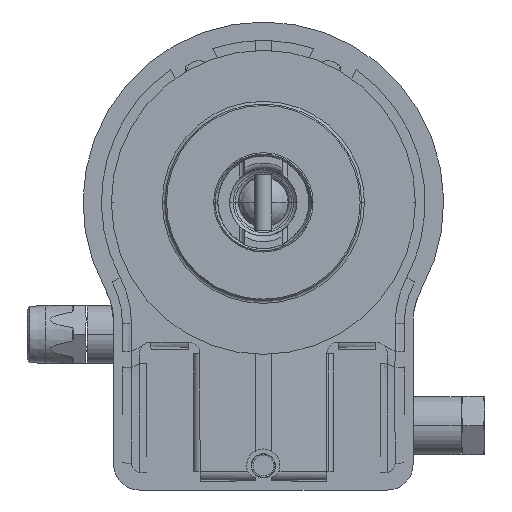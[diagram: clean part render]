
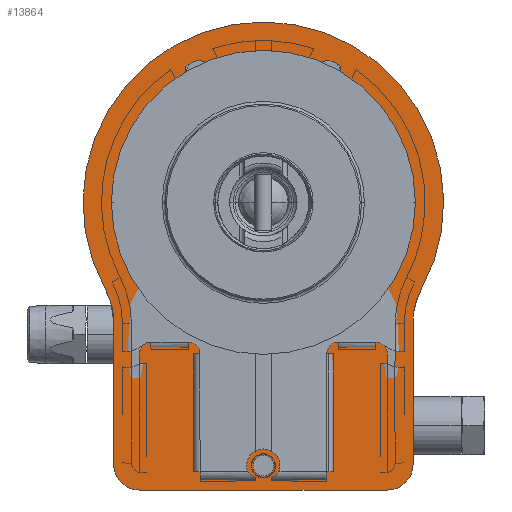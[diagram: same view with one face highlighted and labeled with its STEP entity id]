
A CAD part, front view. The second image highlights one B-rep face of the part: STEP entity #13864.
In plain terms, the highlighted planar face has unit normal (0, -1, 0).
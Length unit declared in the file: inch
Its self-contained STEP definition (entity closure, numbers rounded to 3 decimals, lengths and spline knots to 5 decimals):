
#12217=DIRECTION('',(0.,0.,1.));
#12218=VECTOR('',#12217,3.03927);
#12219=CARTESIAN_POINT('',(3.2,6.585,
-5.60061));
#12220=LINE('',#12219,#12218);
#12221=CARTESIAN_POINT('',(2.65061,6.585,-6.15));
#12222=CARTESIAN_POINT('',(2.692,6.585,-6.15));
#12223=CARTESIAN_POINT('',(2.77263,6.585,-6.14103));
#12224=CARTESIAN_POINT('',(2.89133,6.585,
-6.09962));
#12225=CARTESIAN_POINT('',(2.99517,6.585,
-6.03451));
#12226=CARTESIAN_POINT('',(3.08447,6.585,
-5.94523));
#12227=CARTESIAN_POINT('',(3.14958,6.585,
-5.84141));
#12228=CARTESIAN_POINT('',(3.19102,6.585,
-5.72267));
#12229=CARTESIAN_POINT('',(3.2,6.585,
-5.64202));
#12230=CARTESIAN_POINT('',(3.2,6.585,
-5.60061));
#12232=CARTESIAN_POINT('',(-3.2,6.585,
-5.60061));
#12233=CARTESIAN_POINT('',(-3.2,6.585,
-5.64202));
#12234=CARTESIAN_POINT('',(-3.19102,6.585,
-5.72268));
#12235=CARTESIAN_POINT('',(-3.14958,6.585,
-5.84142));
#12236=CARTESIAN_POINT('',(-3.08446,6.585,
-5.94523));
#12237=CARTESIAN_POINT('',(-2.99518,6.585,
-6.03451));
#12238=CARTESIAN_POINT('',(-2.89134,6.585,
-6.09961));
#12239=CARTESIAN_POINT('',(-2.77264,6.585,-6.14102));
#12240=CARTESIAN_POINT('',(-2.692,6.585,-6.15));
#12241=CARTESIAN_POINT('',(-2.65061,6.585,-6.15));
#12243=DIRECTION('',(0.,0.,1.));
#12244=VECTOR('',#12243,3.03599);
#12245=CARTESIAN_POINT('',(-3.2,6.585,
-5.60061));
#12246=LINE('',#12245,#12244);
#12574=DIRECTION('',(1.,0.,0.));
#12575=VECTOR('',#12574,5.30122);
#12576=CARTESIAN_POINT('',(-2.65061,6.585,-6.15));
#12577=LINE('',#12576,#12575);
#12583=CARTESIAN_POINT('',(2.65061,6.585,-6.15));
#12652=CARTESIAN_POINT('',(0.,6.585,0.));
#12653=DIRECTION('',(0.,-1.,0.));
#12654=DIRECTION('',(0.877,0.,-0.48));
#12655=AXIS2_PLACEMENT_3D('',#12652,#12653,#12654);
#13365=CARTESIAN_POINT('',(-3.2,6.585,
-5.60061));
#13524=CARTESIAN_POINT('',(-3.38292,6.585,-1.84964));
#13525=CARTESIAN_POINT('',(-3.35278,6.585,-1.90477));
#13526=CARTESIAN_POINT('',(-3.29998,6.585,
-2.01769));
#13527=CARTESIAN_POINT('',(-3.24223,6.585,
-2.19692));
#13528=CARTESIAN_POINT('',(-3.20807,6.585,
-2.37977));
#13529=CARTESIAN_POINT('',(-3.20011,6.585,
-2.50275));
#13530=CARTESIAN_POINT('',(-3.20011,6.585,
-2.56462));
#13590=CARTESIAN_POINT('',(3.20022,6.585,
-2.56134));
#13591=CARTESIAN_POINT('',(3.20022,6.585,
-2.50047));
#13592=CARTESIAN_POINT('',(3.20836,6.585,
-2.37913));
#13593=CARTESIAN_POINT('',(3.24185,6.585,
-2.19797));
#13594=CARTESIAN_POINT('',(3.29952,6.585,
-2.01852));
#13595=CARTESIAN_POINT('',(3.35224,6.585,-1.90571));
#13596=CARTESIAN_POINT('',(3.3824,6.585,-1.85059));
#13751=VERTEX_POINT('',#13524);
#13752=VERTEX_POINT('',#13530);
#13753=VERTEX_POINT('',#13590);
#13754=VERTEX_POINT('',#13596);
#13769=VERTEX_POINT('',#13365);
#13770=VERTEX_POINT('',#12241);
#13772=VERTEX_POINT('',#12583);
#13773=VERTEX_POINT('',#12230);
#13841=CARTESIAN_POINT('',(0.,6.585,0.));
#13842=DIRECTION('',(0.,1.,0.));
#13843=DIRECTION('',(-1.,0.,0.));
#13844=AXIS2_PLACEMENT_3D('',#13841,#13842,#13843);
#13845=PLANE('',#13844);
#13847=ORIENTED_EDGE('',*,*,#13846,.F.);
#13849=ORIENTED_EDGE('',*,*,#13848,.F.);
#13851=ORIENTED_EDGE('',*,*,#13850,.F.);
#13853=ORIENTED_EDGE('',*,*,#13852,.F.);
#13855=ORIENTED_EDGE('',*,*,#13854,.F.);
#13857=ORIENTED_EDGE('',*,*,#13856,.F.);
#13859=ORIENTED_EDGE('',*,*,#13858,.T.);
#13861=ORIENTED_EDGE('',*,*,#13860,.F.);
#13862=EDGE_LOOP('',(#13847,#13849,#13851,#13853,#13855,#13857,#13859,#13861));
#13863=FACE_OUTER_BOUND('',#13862,.F.);
#13864=ADVANCED_FACE('',(#13863),#13845,.F.);
#12231=B_SPLINE_CURVE_WITH_KNOTS('',3,(#12221,#12222,#12223,#12224,#12225,
#12226,#12227,#12228,#12229,#12230),.UNSPECIFIED.,.F.,.F.,(4,1,1,1,1,1,1,4),(
0.,0.14286,0.28571,0.42857,0.57143,
0.71429,0.85714,1.),.UNSPECIFIED.);
#12242=B_SPLINE_CURVE_WITH_KNOTS('',3,(#12232,#12233,#12234,#12235,#12236,
#12237,#12238,#12239,#12240,#12241),.UNSPECIFIED.,.F.,.F.,(4,1,1,1,1,1,1,4),(
0.,0.14286,0.28571,0.42857,0.57143,
0.71429,0.85714,1.),.UNSPECIFIED.);
#12656=CIRCLE('',#12655,3.85556);
#13531=B_SPLINE_CURVE_WITH_KNOTS('',3,(#13524,#13525,#13526,#13527,#13528,
#13529,#13530),.UNSPECIFIED.,.F.,.F.,(4,1,1,1,4),(0.,0.25,0.5,0.75,
1.),.UNSPECIFIED.);
#13597=B_SPLINE_CURVE_WITH_KNOTS('',3,(#13590,#13591,#13592,#13593,#13594,
#13595,#13596),.UNSPECIFIED.,.F.,.F.,(4,1,1,1,4),(0.,0.25,0.5,0.75,
1.),.UNSPECIFIED.);
#13846=EDGE_CURVE('',#13754,#13751,#12656,.T.);
#13848=EDGE_CURVE('',#13753,#13754,#13597,.T.);
#13850=EDGE_CURVE('',#13773,#13753,#12220,.T.);
#13852=EDGE_CURVE('',#13772,#13773,#12231,.T.);
#13854=EDGE_CURVE('',#13770,#13772,#12577,.T.);
#13856=EDGE_CURVE('',#13769,#13770,#12242,.T.);
#13858=EDGE_CURVE('',#13769,#13752,#12246,.T.);
#13860=EDGE_CURVE('',#13751,#13752,#13531,.T.);
